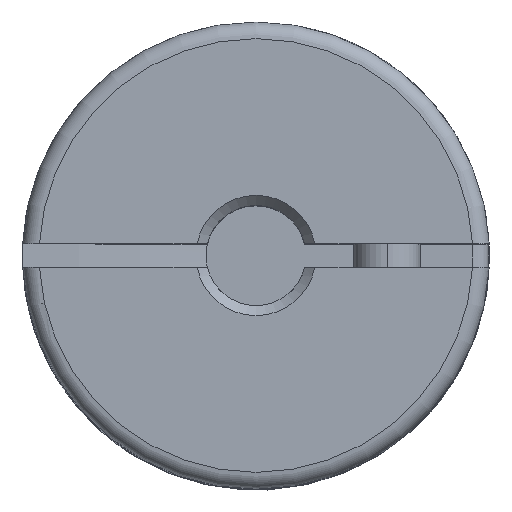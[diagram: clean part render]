
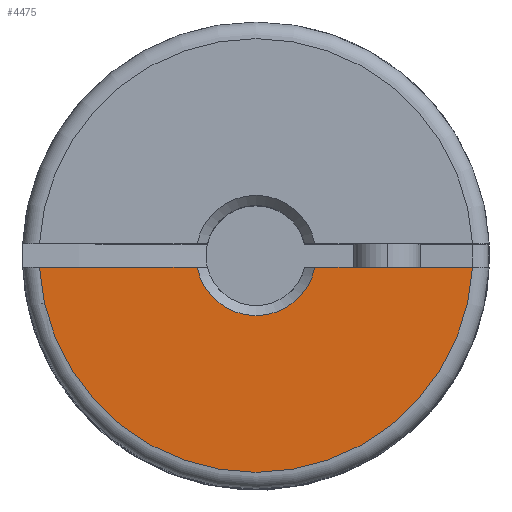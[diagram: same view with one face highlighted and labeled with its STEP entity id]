
A CAD part, top view. The second image highlights one B-rep face of the part: STEP entity #4475.
In plain terms, the highlighted planar face has unit normal (0, 0, 1).
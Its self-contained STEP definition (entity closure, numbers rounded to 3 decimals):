
#139 = FACE_OUTER_BOUND ( 'NONE', #4235, .T. ) ;
#480 = LINE ( 'NONE', #6797, #491 ) ;
#487 = CIRCLE ( 'NONE', #3601, 1.8 ) ;
#491 = VECTOR ( 'NONE', #6804, 1000. ) ;
#492 = LINE ( 'NONE', #6793, #494 ) ;
#493 = CIRCLE ( 'NONE', #3602, 6.5 ) ;
#494 = VECTOR ( 'NONE', #6798, 1000. ) ;
#683 = DIRECTION ( 'NONE',  ( 0., 0., 1. ) ) ;
#688 = DIRECTION ( 'NONE',  ( 1., 0., 0. ) ) ;
#691 = PLANE ( 'NONE',  #6075 ) ;
#693 = CARTESIAN_POINT ( 'NONE',  ( 0., 0., 11. ) ) ;
#990 = CARTESIAN_POINT ( 'NONE',  ( -1.766, -0.35, 11. ) ) ;
#994 = CARTESIAN_POINT ( 'NONE',  ( 1.766, -0.35, 11. ) ) ;
#996 = CARTESIAN_POINT ( 'NONE',  ( -6.491, -0.35, 11. ) ) ;
#1013 = CARTESIAN_POINT ( 'NONE',  ( 6.491, -0.35, 11. ) ) ;
#3601 = AXIS2_PLACEMENT_3D ( 'NONE', #6790, #6789, #6788 ) ;
#3602 = AXIS2_PLACEMENT_3D ( 'NONE', #6783, #6782, #6781 ) ;
#3968 = VERTEX_POINT ( 'NONE', #1013 ) ;
#3984 = VERTEX_POINT ( 'NONE', #994 ) ;
#3988 = VERTEX_POINT ( 'NONE', #990 ) ;
#3989 = VERTEX_POINT ( 'NONE', #996 ) ;
#4235 = EDGE_LOOP ( 'NONE', ( #4686, #4687, #4688, #4689 ) ) ;
#4475 = ADVANCED_FACE ( 'NONE', ( #139 ), #691, .T. ) ;
#4686 = ORIENTED_EDGE ( 'NONE', *, *, #5731, .T. ) ;
#4687 = ORIENTED_EDGE ( 'NONE', *, *, #5732, .T. ) ;
#4688 = ORIENTED_EDGE ( 'NONE', *, *, #5733, .T. ) ;
#4689 = ORIENTED_EDGE ( 'NONE', *, *, #5734, .T. ) ;
#5731 = EDGE_CURVE ( 'NONE', #3968, #3984, #480, .T. ) ;
#5732 = EDGE_CURVE ( 'NONE', #3984, #3988, #487, .T. ) ;
#5733 = EDGE_CURVE ( 'NONE', #3988, #3989, #492, .T. ) ;
#5734 = EDGE_CURVE ( 'NONE', #3989, #3968, #493, .T. ) ;
#6075 = AXIS2_PLACEMENT_3D ( 'NONE', #693, #683, #688 ) ;
#6781 = DIRECTION ( 'NONE',  ( 1., 0., 0. ) ) ;
#6782 = DIRECTION ( 'NONE',  ( 0., 0., 1. ) ) ;
#6783 = CARTESIAN_POINT ( 'NONE',  ( 0., 0., 11. ) ) ;
#6788 = DIRECTION ( 'NONE',  ( 1., 0., 0. ) ) ;
#6789 = DIRECTION ( 'NONE',  ( 0., 0., -1. ) ) ;
#6790 = CARTESIAN_POINT ( 'NONE',  ( 0., 0., 11. ) ) ;
#6793 = CARTESIAN_POINT ( 'NONE',  ( 0., -0.35, 11. ) ) ;
#6797 = CARTESIAN_POINT ( 'NONE',  ( 0., -0.35, 11. ) ) ;
#6798 = DIRECTION ( 'NONE',  ( -1., 0., 0. ) ) ;
#6804 = DIRECTION ( 'NONE',  ( -1., 0., 0. ) ) ;
